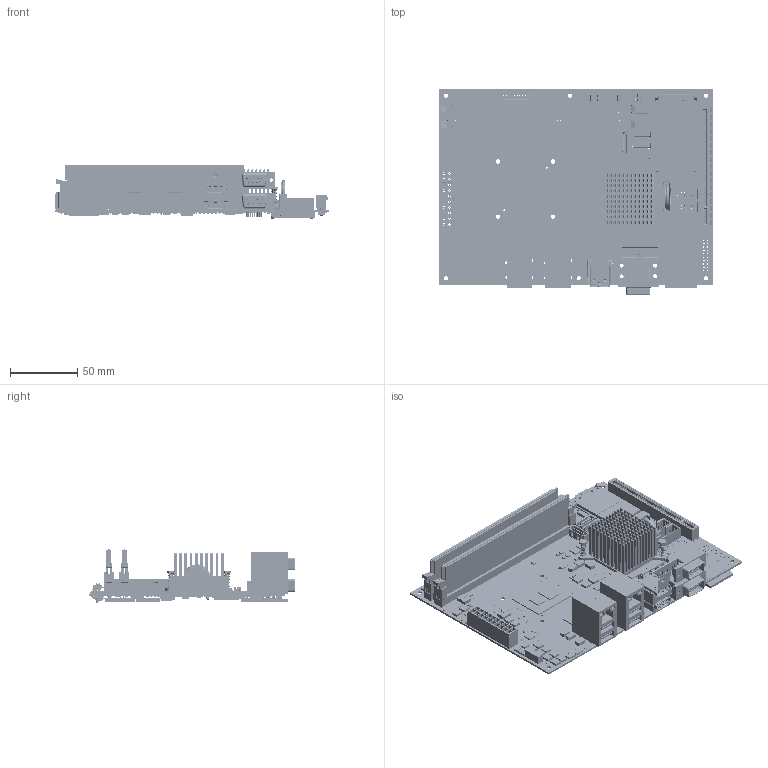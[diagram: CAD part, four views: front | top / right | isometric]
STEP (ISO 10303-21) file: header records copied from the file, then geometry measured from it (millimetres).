
FILE_DESCRIPTION (( 'STEP AP203' ), '1' );
FILE_NAME ('ANTARES SBC TOP LEVEL ASSY 05-02-10.STEP', '2010-06-17T11:30:52', ( 'Derrick' ), ( '' ), 'SwSTEP 2.0', 'SolidWorks 2010', '' );
FILE_SCHEMA (( 'CONFIG_CONTROL_DESIGN' ));
Products named in the file (1): ANTARES SBC TOP LEVEL ASSY 05-02-10
Bounding box: 203.2 x 153.49 x 39.63 mm (x, y, z)
Surface area: 184394.6 mm2 (no closed solid volume)
Topology: 0 solids, 2660 shells, 12710 faces, 51928 edges, 40555 vertices
Faces by surface type: plane 11184, cylinder 1363, bspline 124, cone 37, torus 2
Entity records: 537749 total; most frequent: CARTESIAN_POINT 121467, DIRECTION 81703, ORIENTED_EDGE 70900, EDGE_CURVE 51926, LINE 44645, VECTOR 44645, VERTEX_POINT 40555, AXIS2_PLACEMENT_3D 18529
